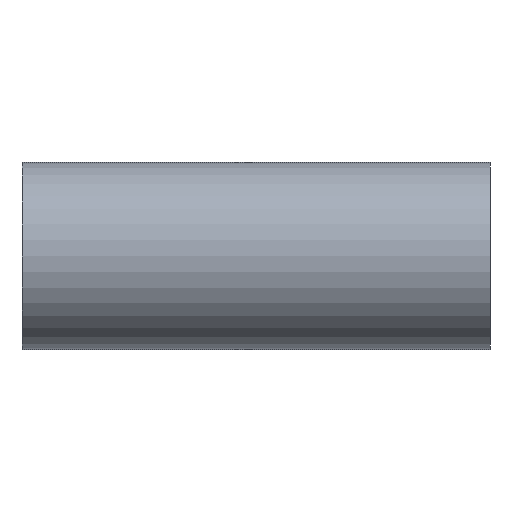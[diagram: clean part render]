
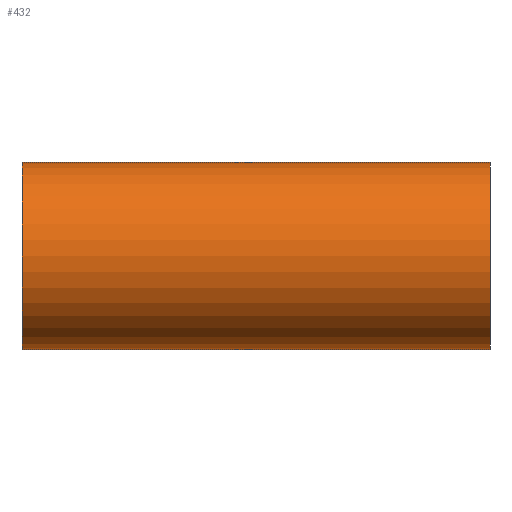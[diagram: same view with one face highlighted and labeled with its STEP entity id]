
A CAD part, front view. The second image highlights one B-rep face of the part: STEP entity #432.
In plain terms, the highlighted cylindrical face has radius 31.75 mm (diameter 63.5 mm), a partial arc.
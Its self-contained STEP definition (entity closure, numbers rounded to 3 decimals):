
#5 = CARTESIAN_POINT ( 'NONE',  ( -79.4, 0., 31.75 ) ) ;
#15 = AXIS2_PLACEMENT_3D ( 'NONE', #214, #356, #346 ) ;
#39 = EDGE_CURVE ( 'NONE', #79, #469, #471, .T. ) ;
#46 = DIRECTION ( 'NONE',  ( 0., 0., -1. ) ) ;
#48 = EDGE_CURVE ( 'NONE', #79, #265, #378, .T. ) ;
#54 = CARTESIAN_POINT ( 'NONE',  ( -79.4, 0., -31.75 ) ) ;
#79 = VERTEX_POINT ( 'NONE', #5 ) ;
#98 = EDGE_CURVE ( 'NONE', #434, #469, #231, .T. ) ;
#109 = ORIENTED_EDGE ( 'NONE', *, *, #39, .F. ) ;
#115 = VECTOR ( 'NONE', #193, 1000. ) ;
#126 = FACE_OUTER_BOUND ( 'NONE', #227, .T. ) ;
#132 = ORIENTED_EDGE ( 'NONE', *, *, #381, .T. ) ;
#165 = VECTOR ( 'NONE', #283, 1000. ) ;
#193 = DIRECTION ( 'NONE',  ( 1., 0., 0. ) ) ;
#195 = CARTESIAN_POINT ( 'NONE',  ( -79.4, 0., -31.75 ) ) ;
#208 = LINE ( 'NONE', #195, #115 ) ;
#214 = CARTESIAN_POINT ( 'NONE',  ( 79.4, 0., 0. ) ) ;
#227 = EDGE_LOOP ( 'NONE', ( #109, #296, #132, #325 ) ) ;
#231 = CIRCLE ( 'NONE', #15, 31.75 ) ;
#242 = AXIS2_PLACEMENT_3D ( 'NONE', #320, #380, #46 ) ;
#265 = VERTEX_POINT ( 'NONE', #54 ) ;
#270 = CARTESIAN_POINT ( 'NONE',  ( -79.4, 0., 0. ) ) ;
#282 = CYLINDRICAL_SURFACE ( 'NONE', #363, 31.75 ) ;
#283 = DIRECTION ( 'NONE',  ( 1., 0., 0. ) ) ;
#296 = ORIENTED_EDGE ( 'NONE', *, *, #48, .T. ) ;
#299 = CARTESIAN_POINT ( 'NONE',  ( 79.4, 0., 31.75 ) ) ;
#320 = CARTESIAN_POINT ( 'NONE',  ( -79.4, 0., 0. ) ) ;
#325 = ORIENTED_EDGE ( 'NONE', *, *, #98, .T. ) ;
#346 = DIRECTION ( 'NONE',  ( 0., 0., -1. ) ) ;
#356 = DIRECTION ( 'NONE',  ( -1., 0., 0. ) ) ;
#357 = DIRECTION ( 'NONE',  ( 0., 0., -1. ) ) ;
#363 = AXIS2_PLACEMENT_3D ( 'NONE', #270, #442, #357 ) ;
#378 = CIRCLE ( 'NONE', #242, 31.75 ) ;
#380 = DIRECTION ( 'NONE',  ( 1., 0., 0. ) ) ;
#381 = EDGE_CURVE ( 'NONE', #265, #434, #208, .T. ) ;
#418 = CARTESIAN_POINT ( 'NONE',  ( -79.4, 0., 31.75 ) ) ;
#432 = ADVANCED_FACE ( 'NONE', ( #126 ), #282, .T. ) ;
#434 = VERTEX_POINT ( 'NONE', #459 ) ;
#442 = DIRECTION ( 'NONE',  ( 1., 0., 0. ) ) ;
#459 = CARTESIAN_POINT ( 'NONE',  ( 79.4, 0., -31.75 ) ) ;
#469 = VERTEX_POINT ( 'NONE', #299 ) ;
#471 = LINE ( 'NONE', #418, #165 ) ;
